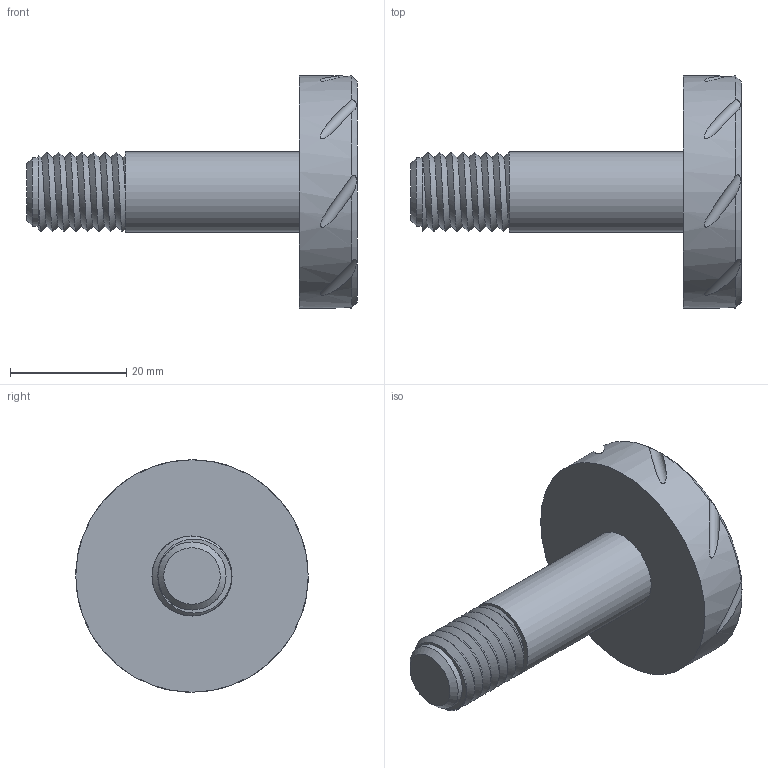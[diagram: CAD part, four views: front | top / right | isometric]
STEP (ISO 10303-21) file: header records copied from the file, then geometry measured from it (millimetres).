
FILE_DESCRIPTION(('HOOPS Exchange Step'),'2;1');
FILE_NAME('/private/var/mobile/Containers/Data/Application/E34E9B9D-13F5-4398-A6D4-3D2E6F602CF2/tmp/export/temp_export','2023-02-19T17:27:10-06:00',('mobile'),('Shapr3D Limited'),'HOOPS Exchange 2022.2','Shapr3D','Authorized');
FILE_SCHEMA( ('AUTOMOTIVE_DESIGN { 1 0 10303 214 1 1 1 1 }') );
Length unit declared in the file: millimetre
Products named in the file (1): Cap
Bounding box: 57 x 40.05 x 40.05 mm (x, y, z)
Volume: 19080.6 mm3; surface area: 5945.9 mm2
Topology: 1 solids, 1 shells, 29 faces, 78 edges, 53 vertices
Faces by surface type: cylinder 20, plane 5, cone 2, bspline 2
Full cylindrical faces by diameter (mm): 11.74 x7, 13.8 x1, 40.05 x1
Entity records: 7298 total; most frequent: CARTESIAN_POINT 6629, ORIENTED_EDGE 156, DIRECTION 112, EDGE_CURVE 78, VERTEX_POINT 53, AXIS2_PLACEMENT_3D 49, EDGE_LOOP 31, FACE_BOUND 31
